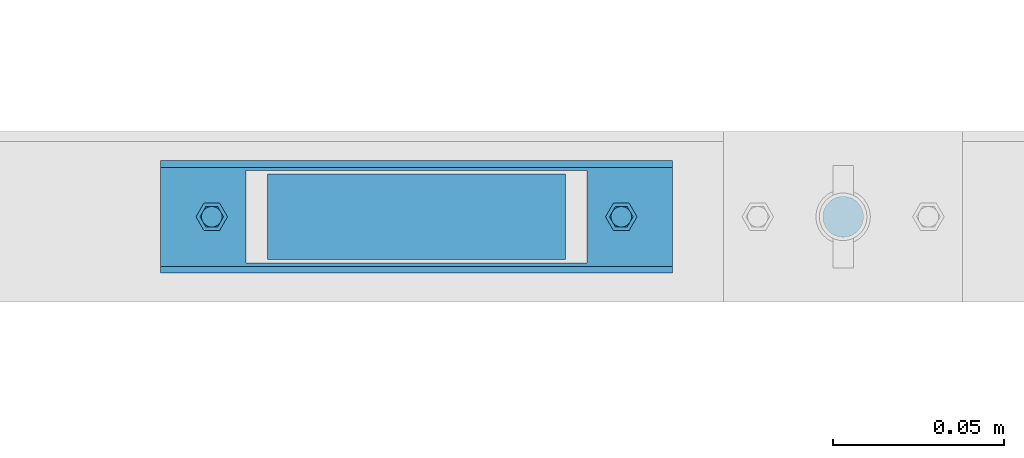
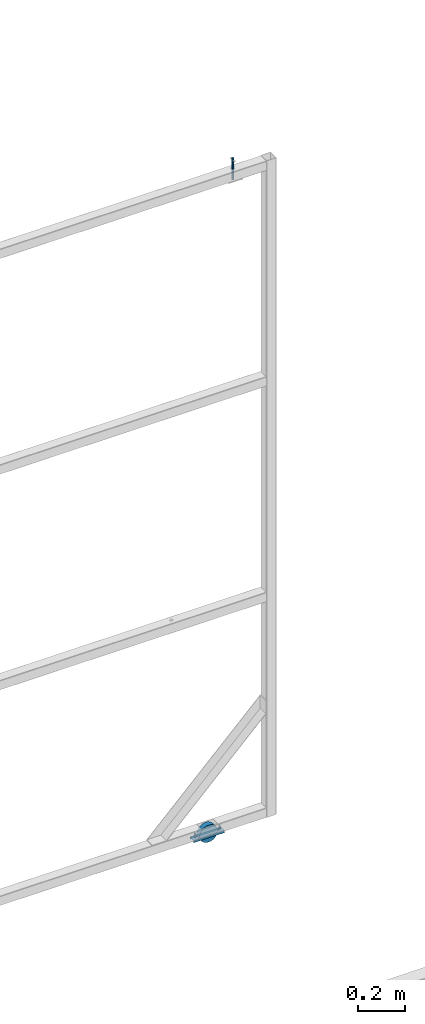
# One storey, part 21 of 91: 5 discrete accessories, 1 mechanical fastener, 1 element without a shape of its own.
"""IFC2X3 building model written with IfcOpenShell, lengths in millimetres."""

from ifc_helpers import new_model, si_unit, frame, origin_with_axes, origin_2d_with_axis, place, context, subcontext, project, spatial, polyline, circle, outline, extrude, boolean, source, transform, mapped, material, type_object, element, aggregate, save


model = new_model("IFC2X3")

# Units and contexts
model_context = context("Model", 3, precision=1e-05, world=origin_with_axes())
body_context = subcontext(model_context, "Body", "Model", "MODEL_VIEW")
ifc_project = project(units=[si_unit("LENGTHUNIT", "METRE", prefix="MILLI"), si_unit("AREAUNIT", "SQUARE_METRE"), si_unit("VOLUMEUNIT", "CUBIC_METRE"), si_unit("MASSUNIT", "GRAM", prefix="KILO"), si_unit("TIMEUNIT", "SECOND"), si_unit("PLANEANGLEUNIT", "RADIAN"), si_unit("SOLIDANGLEUNIT", "STERADIAN"), si_unit("THERMODYNAMICTEMPERATUREUNIT", "DEGREE_CELSIUS"), si_unit("LUMINOUSINTENSITYUNIT", "LUMEN")], contexts=[model_context])

# Site, building, storey
site_placement = place(None, origin_with_axes())
site = spatial("IfcSite", under=ifc_project, at=site_placement, Name="Undefined", CompositionType="ELEMENT")
building_placement = place(site_placement, origin_with_axes())
building = spatial("IfcBuilding", under=site, at=building_placement, Name="Undefined", CompositionType="ELEMENT")
storey_placement = place(building_placement, origin_with_axes())
storey = spatial("IfcBuildingStorey", under=building, at=storey_placement, Name="Undefined", CompositionType="ELEMENT", Elevation=0.0)

# Assembly, discrete accessories, mechanical fastener
assembly_placement = place(storey_placement, origin_with_axes())
assembly = element("IfcElementAssembly", 1, at=assembly_placement, inside=storey, Name="Sliding Door Beam", AssemblyPlace="NOTDEFINED", PredefinedType="RIGID_FRAME")
ifc_material_1 = material(Name="STEEL/250")
discrete_accessory_type_1 = type_object("IfcDiscreteAccessoryType", Name="PLATE")
discrete_accessory_1_placement = place(assembly_placement, frame((-110951.29, 90364.5, -19.0), z_axis=(0.0, -1.0, 0.0), x_axis=(0.0, 0.0, -1.0)))
discrete_accessory_1 = element("IfcDiscreteAccessory", 2, at=discrete_accessory_1_placement, type_object=discrete_accessory_type_1, material=ifc_material_1, Name="PLATE", ObjectType="PLT2*10", context=body_context, shape_type="SweptSolid", body=[
    extrude(outline(polyline([(0.0, 0.0), (10.0, 0.0), (10.0, 150.0), (0.0, 150.0), (0.0, 0.0)])), frame((0.0, 0.0, -1.0), z_axis=(0.0, 0.0, 1.0), x_axis=(1.0, 0.0, 0.0)), (0.0, 0.0, 1.0), 2.0),
])
discrete_accessory_2_placement = place(assembly_placement, frame((-110951.29, 90395.5, -19.0), z_axis=(0.0, -1.0, 0.0), x_axis=(0.0, 0.0, -1.0)))
discrete_accessory_2 = element("IfcDiscreteAccessory", 3, at=discrete_accessory_2_placement, type_object=discrete_accessory_type_1, material=ifc_material_1, Name="PLATE", ObjectType="PLT2*10", context=body_context, shape_type="SweptSolid", body=[
    extrude(outline(polyline([(0.0, 0.0), (10.0, 0.0), (10.0, 150.0), (0.0, 150.0), (0.0, 0.0)])), frame((0.0, 0.0, -1.0), z_axis=(0.0, 0.0, 1.0), x_axis=(1.0, 0.0, 0.0)), (0.0, 0.0, 1.0), 2.0),
])
discrete_accessory_3_placement = place(assembly_placement, frame((-110951.29, 90363.5, -18.0), z_axis=(0.0, 0.0, -1.0), x_axis=(0.0, 1.0, 0.0)))
discrete_accessory_3 = element("IfcDiscreteAccessory", 4, at=discrete_accessory_3_placement, type_object=discrete_accessory_type_1, material=ifc_material_1, Name="PLATE", ObjectType="PLT2*33", context=body_context, shape_type="CSG", body=[
    boolean("DIFFERENCE", extrude(outline(polyline([(0.0, 0.0), (33.0, 0.0), (33.0, 150.0), (0.0, 150.0), (0.0, 0.0)])), frame((0.0, 0.0, -1.0), z_axis=(0.0, 0.0, 1.0), x_axis=(1.0, 0.0, 0.0)), (0.0, 0.0, 1.0), 2.0), extrude(outline(polyline([(0.0, 0.0), (27.0, 0.0), (27.0, 100.0), (0.0, 100.0), (0.0, 0.0)])), frame((30.0037103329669, 25.0032500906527, 3.5), z_axis=(0.0, 0.0, -1.0), x_axis=(-1.0, 0.0, 0.0)), (0.0, 0.0, 1.0), 7.0)),
])
ifc_material_2 = material(Name="TEK_11TPIM")
discrete_accessory_type_2 = type_object("IfcDiscreteAccessoryType", Name="Bolt assembly")
shared_shape = source(origin_with_axes(), body_context, "Body", "SweptSolid", [
    extrude(circle(Radius=3.0, at=origin_2d_with_axis()), frame((0.0, 0.0, 0.0), z_axis=(0.0, 1.0, 0.0), x_axis=(1.0, 0.0, 0.0)), (0.0, 0.0, 1.0), 2.1),
    extrude(outline(polyline([(4.61880215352, 0.0), (2.30940107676, 4.00000000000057), (-2.30940107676, 4.00000000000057), (-4.61880215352, 0.0), (-2.30940107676, -4.00000000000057), (2.30940107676, -4.00000000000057), (4.61880215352, 0.0)])), frame((0.0, -5.10000000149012, 0.0), z_axis=(0.0, 1.0, 0.0), x_axis=(1.0, 0.0, 0.0)), (0.0, 0.0, 1.0), 5.0),
    extrude(circle(Radius=3.0, at=origin_2d_with_axis()), frame((0.0, -0.100000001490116, 0.0), z_axis=(0.0, 1.0, 0.0), x_axis=(1.0, 0.0, 0.0)), (0.0, 0.0, 1.0), 25.0),
    extrude(circle(Radius=3.0, at=origin_2d_with_axis()), frame((0.0, -0.100000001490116, 0.0), z_axis=(0.0, 1.0, 0.0), x_axis=(1.0, 0.0, 0.0)), (0.0, 0.0, 1.0), 0.1),
    extrude(circle(Radius=3.0, at=origin_2d_with_axis()), frame((0.0, 2.00000000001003, 0.0), z_axis=(0.0, 1.0, 0.0), x_axis=(1.0, 0.0, 0.0)), (0.0, 0.0, 1.0), 0.1),
    extrude(outline(polyline([(3.46410161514, 0.0), (1.73205080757, 3.00000000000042), (-1.73205080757, 3.00000000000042), (-3.46410161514, 0.0), (-1.73205080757, -3.00000000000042), (1.73205080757, -3.00000000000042), (3.46410161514, 0.0)])), frame((0.0, 2.10000000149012, 0.0), z_axis=(0.0, 1.0, 0.0), x_axis=(1.0, 0.0, 0.0)), (0.0, 0.0, 1.0), 0.1),
])
mechanical_fastener_placement = place(assembly_placement, frame((-110816.29, 90380.0, -19.0), z_axis=(0.0, 1.0, 0.0), x_axis=(-1.0, 0.0, 0.0)))
mechanical_fastener = element("IfcMechanicalFastener", 5, at=mechanical_fastener_placement, type_object=discrete_accessory_type_2, material=ifc_material_2, Name="Bolt assembly", NominalDiameter=6.0, NominalLength=25.0, context=body_context, shape_type="MappedRepresentation", body=[
    mapped(shared_shape, transform((0.0, 0.0, 0.0))),
    mapped(shared_shape, transform((120.0, 0.0, 0.0))),
])
discrete_accessory_type_3 = type_object("IfcDiscreteAccessoryType", Name="DB-BU90")
discrete_accessory_4_placement = place(assembly_placement, frame((-110876.29, 90392.5009765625, -10.0), z_axis=(1.0, 0.0, 0.0), x_axis=(0.0, -1.0, 0.0)))
discrete_accessory_4 = element("IfcDiscreteAccessory", 6, at=discrete_accessory_4_placement, type_object=discrete_accessory_type_3, material=ifc_material_1, Name="DB-BU90", ObjectType="D88", context=body_context, shape_type="SweptSolid", body=[
    extrude(circle(Radius=44.0, at=origin_2d_with_axis()), frame((25.0, 0.0, 0.0), z_axis=(-1.0, 0.0, 0.0), x_axis=(0.0, -1.0, 0.0)), (0.0, 0.0, 1.0), 25.0),
])
discrete_accessory_type_4 = type_object("IfcDiscreteAccessoryType", Name="ROD")
discrete_accessory_5_placement = place(assembly_placement, frame((-110751.29, 90380.0, 3320.0), z_axis=(0.0, 0.0, 1.0), x_axis=(1.0, 0.0, 0.0)))
discrete_accessory_5 = element("IfcDiscreteAccessory", 7, at=discrete_accessory_5_placement, type_object=discrete_accessory_type_4, material=ifc_material_1, Name="ROD", ObjectType="D12", context=body_context, shape_type="CSG", body=[
    boolean("DIFFERENCE", extrude(circle(Radius=6.0, at=origin_2d_with_axis()), frame((0.0, 0.0, 110.0), z_axis=(0.0, 0.0, -1.0), x_axis=(0.0, 1.0, 0.0)), (0.0, 0.0, 1.0), 110.0), extrude(circle(Radius=3.5, at=origin_2d_with_axis()), frame((0.0, 15.0, 101.0), z_axis=(0.0, -1.0, 0.0), x_axis=(0.0, 0.0, -1.0)), (0.0, 0.0, 1.0), 30.0)),
])
aggregate(assembly, [mechanical_fastener, discrete_accessory_1, discrete_accessory_2, discrete_accessory_4, discrete_accessory_3, discrete_accessory_5])

save(model, "model.ifc")
